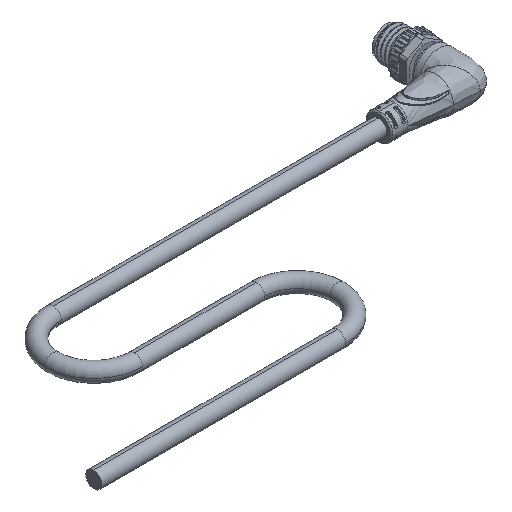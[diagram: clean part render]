
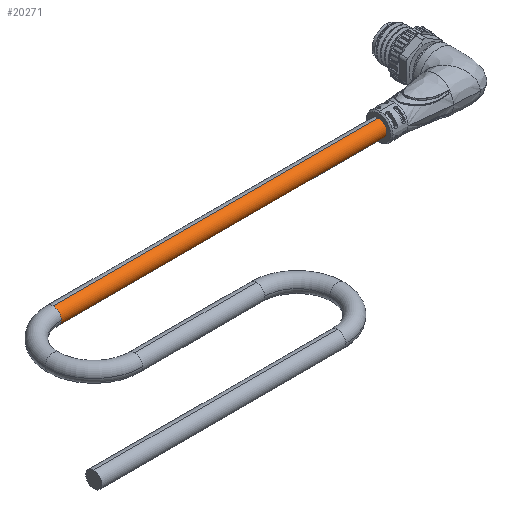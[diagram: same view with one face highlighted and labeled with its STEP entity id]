
A CAD part, isometric view. The second image highlights one B-rep face of the part: STEP entity #20271.
In plain terms, the highlighted cylindrical face has radius 2 mm (diameter 4 mm), a partial arc.
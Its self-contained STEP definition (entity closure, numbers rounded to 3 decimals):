
#597 = CARTESIAN_POINT ( 'NONE',  ( 2., 40., 0. ) ) ;
#1783 = DIRECTION ( 'NONE',  ( 0., 0., -1. ) ) ;
#2374 = CARTESIAN_POINT ( 'NONE',  ( 0., 40., 0. ) ) ;
#3447 = EDGE_CURVE ( 'NONE', #9278, #17065, #8333, .T. ) ;
#3583 = CARTESIAN_POINT ( 'NONE',  ( 0., 40., 0. ) ) ;
#4826 = ORIENTED_EDGE ( 'NONE', *, *, #10678, .T. ) ;
#5200 = AXIS2_PLACEMENT_3D ( 'NONE', #19084, #25299, #24929 ) ;
#7145 = CARTESIAN_POINT ( 'NONE',  ( -2., 40., -90. ) ) ;
#7940 = ORIENTED_EDGE ( 'NONE', *, *, #23511, .T. ) ;
#8333 = CIRCLE ( 'NONE', #13137, 2. ) ;
#8777 = AXIS2_PLACEMENT_3D ( 'NONE', #3583, #26796, #21331 ) ;
#9278 = VERTEX_POINT ( 'NONE', #22674 ) ;
#9413 = EDGE_CURVE ( 'NONE', #31079, #17272, #9971, .T. ) ;
#9971 = CIRCLE ( 'NONE', #8777, 2. ) ;
#10451 = DIRECTION ( 'NONE',  ( -1., 0., 0. ) ) ;
#10486 = VECTOR ( 'NONE', #30175, 1000. ) ;
#10574 = CYLINDRICAL_SURFACE ( 'NONE', #5200, 2. ) ;
#10678 = EDGE_CURVE ( 'NONE', #31606, #31079, #19856, .T. ) ;
#10708 = CARTESIAN_POINT ( 'NONE',  ( 2., 40., 0. ) ) ;
#12999 = ORIENTED_EDGE ( 'NONE', *, *, #14348, .F. ) ;
#13137 = AXIS2_PLACEMENT_3D ( 'NONE', #33883, #16868, #10451 ) ;
#14348 = EDGE_CURVE ( 'NONE', #31606, #9278, #24687, .T. ) ;
#16257 = FACE_OUTER_BOUND ( 'NONE', #27945, .T. ) ;
#16868 = DIRECTION ( 'NONE',  ( 0., 0., -1. ) ) ;
#17065 = VERTEX_POINT ( 'NONE', #7145 ) ;
#17272 = VERTEX_POINT ( 'NONE', #17491 ) ;
#17491 = CARTESIAN_POINT ( 'NONE',  ( -2., 40., 0. ) ) ;
#19084 = CARTESIAN_POINT ( 'NONE',  ( 0., 40., 0. ) ) ;
#19856 = CIRCLE ( 'NONE', #20321, 2. ) ;
#20271 = ADVANCED_FACE ( 'NONE', ( #16257 ), #10574, .T. ) ;
#20321 = AXIS2_PLACEMENT_3D ( 'NONE', #2374, #25781, #28049 ) ;
#21331 = DIRECTION ( 'NONE',  ( -1., 0., 0. ) ) ;
#22320 = CARTESIAN_POINT ( 'NONE',  ( 0., 38., 0. ) ) ;
#22674 = CARTESIAN_POINT ( 'NONE',  ( 2., 40., -90. ) ) ;
#23511 = EDGE_CURVE ( 'NONE', #17272, #17065, #28015, .T. ) ;
#24687 = LINE ( 'NONE', #10708, #10486 ) ;
#24929 = DIRECTION ( 'NONE',  ( -1., 0., 0. ) ) ;
#25299 = DIRECTION ( 'NONE',  ( 0., 0., -1. ) ) ;
#25781 = DIRECTION ( 'NONE',  ( 0., 0., -1. ) ) ;
#26796 = DIRECTION ( 'NONE',  ( 0., 0., -1. ) ) ;
#27945 = EDGE_LOOP ( 'NONE', ( #12999, #4826, #28547, #7940, #31463 ) ) ;
#28015 = LINE ( 'NONE', #36740, #28309 ) ;
#28049 = DIRECTION ( 'NONE',  ( -1., 0., 0. ) ) ;
#28309 = VECTOR ( 'NONE', #1783, 1000. ) ;
#28547 = ORIENTED_EDGE ( 'NONE', *, *, #9413, .T. ) ;
#30175 = DIRECTION ( 'NONE',  ( 0., 0., -1. ) ) ;
#31079 = VERTEX_POINT ( 'NONE', #22320 ) ;
#31463 = ORIENTED_EDGE ( 'NONE', *, *, #3447, .F. ) ;
#31606 = VERTEX_POINT ( 'NONE', #597 ) ;
#33883 = CARTESIAN_POINT ( 'NONE',  ( 0., 40., -90. ) ) ;
#36740 = CARTESIAN_POINT ( 'NONE',  ( -2., 40., 0. ) ) ;
